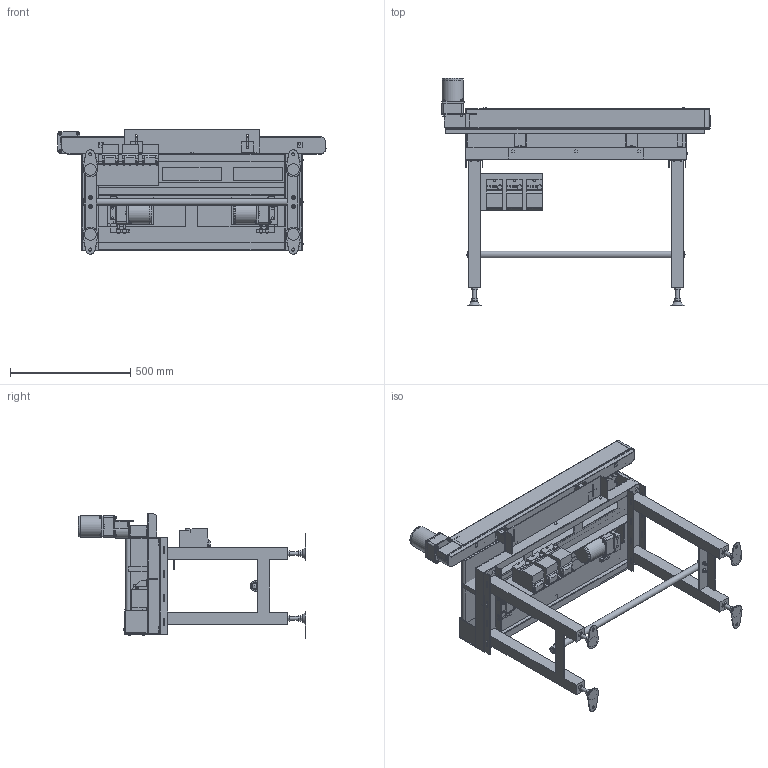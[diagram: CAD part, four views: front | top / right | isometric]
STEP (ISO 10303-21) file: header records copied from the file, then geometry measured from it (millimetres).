
FILE_DESCRIPTION( (''), '2;1');
FILE_NAME ('WEB-SGA-U-304x3-300-L-IVH-15-B.stp','2026-09-19T10:44:59',(''),(''),'spGate 21.9.5 (****-****-****-****)','','');
FILE_SCHEMA (('AUTOMOTIVE_DESIGN'));
Length unit declared in the file: millimetre
Products named in the file (91): WEB-SGA-U-304x3-300-L-IVH-15-B; TEMP_X_T-prt0; TEMP_X_T-prt1; TEMP_X_T-prt2; TEMP_X_T-prt3; TEMP_X_T-prt4; TEMP_X_T-prt5; TEMP_X_T-prt6; TEMP_X_T-prt7; TEMP_X_T-prt8; TEMP_X_T-prt9; TEMP_X_T-prt10; TEMP_X_T-prt11; TEMP_X_T-prt12; TEMP_X_T-prt13; TEMP_X_T-prt14; TEMP_X_T-prt15; TEMP_X_T-prt16; TEMP_X_T-prt17; TEMP_X_T-prt18; TEMP_X_T-prt19; TEMP_X_T-prt20; TEMP_X_T-prt21; TEMP_X_T-prt22; TEMP_X_T-prt23; TEMP_X_T-prt24; TEMP_X_T-prt25; TEMP_X_T-prt26; TEMP_X_T-prt27; TEMP_X_T-prt28; TEMP_X_T-prt29; TEMP_X_T-prt30; TEMP_X_T-prt31; TEMP_X_T-prt32; TEMP_X_T-prt33; TEMP_X_T-prt34; TEMP_X_T-prt35; TEMP_X_T-prt36; TEMP_X_T-prt37; TEMP_X_T-prt38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
Assembly tree (90 placements, depth 2):
  WEB-SGA-U-304x3-300-L-IVH-15-B
    TEMP_X_T-prt0
    TEMP_X_T-prt1
    TEMP_X_T-prt2
    TEMP_X_T-prt3
    TEMP_X_T-prt4
    TEMP_X_T-prt5
    TEMP_X_T-prt6
    TEMP_X_T-prt7
    TEMP_X_T-prt8
    TEMP_X_T-prt9
    TEMP_X_T-prt10
    TEMP_X_T-prt11
    TEMP_X_T-prt12
    TEMP_X_T-prt13
    TEMP_X_T-prt14
    TEMP_X_T-prt15
    TEMP_X_T-prt16
    TEMP_X_T-prt17
    TEMP_X_T-prt18
    TEMP_X_T-prt19
    TEMP_X_T-prt20
    TEMP_X_T-prt21
    TEMP_X_T-prt22
    TEMP_X_T-prt23
    TEMP_X_T-prt24
    TEMP_X_T-prt25
    TEMP_X_T-prt26
    TEMP_X_T-prt27
    TEMP_X_T-prt28
    TEMP_X_T-prt29
    TEMP_X_T-prt30
    TEMP_X_T-prt31
    TEMP_X_T-prt32
    TEMP_X_T-prt33
    TEMP_X_T-prt34
    TEMP_X_T-prt35
    TEMP_X_T-prt36
    TEMP_X_T-prt37
    TEMP_X_T-prt38
    TEMP_X_T-prt39
    TEMP_X_T-prt40
    TEMP_X_T-prt41
    TEMP_X_T-prt42
    TEMP_X_T-prt43
    TEMP_X_T-prt44
    TEMP_X_T-prt45
    TEMP_X_T-prt46
    TEMP_X_T-prt47
    TEMP_X_T-prt48
    TEMP_X_T-prt49
    TEMP_X_T-prt50
    TEMP_X_T-prt51
    TEMP_X_T-prt52
    TEMP_X_T-prt53
    TEMP_X_T-prt54
    TEMP_X_T-prt55
    TEMP_X_T-prt56
    TEMP_X_T-prt57
    TEMP_X_T-prt58
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Bounding box: 1115.9 x 948 x 517 mm (x, y, z)
Volume: 22898444.1 mm3; surface area: 5220759.3 mm2
Topology: 91 solids, 92 shells, 2631 faces, 6780 edges, 4500 vertices
Faces by surface type: plane 1971, cylinder 458, bspline 202
Full cylindrical faces by diameter (mm): 2 x3, 3.3 x9, 4 x18, 5 x15, 5.5 x3, 6 x32, 6.5 x24, 6.6 x12, 7 x4, 8 x8, 8.49 x3, 10 x12, 10.5 x1, 12 x3, 12.5 x12, 13 x4, 16 x8, 17 x4, 20 x7, 22 x1, 27.2 x1, 28 x2, 36 x3, 40 x4, 50 x2, 83 x3, 84 x3, 86.3 x3, 89 x3
Entity records: 140375 total; most frequent: CARTESIAN_POINT 19656, ORIENTED_EDGE 13528, DIRECTION 12942, COLOUR_RGB 9484, PRESENTATION_STYLE_ASSIGNMENT 9484, STYLED_ITEM 9484, EDGE_CURVE 6764, DRAUGHTING_PRE_DEFINED_CURVE_FONT 6764
